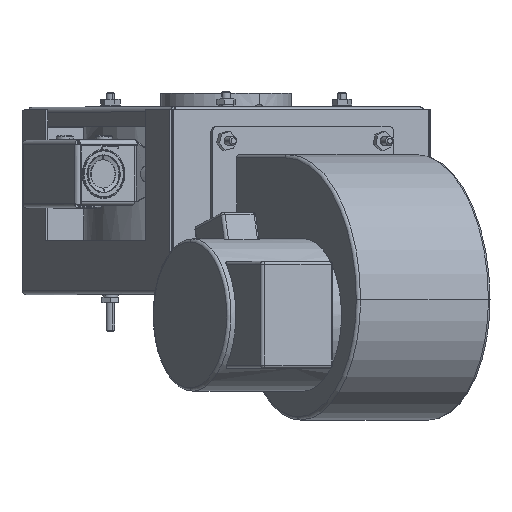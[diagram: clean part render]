
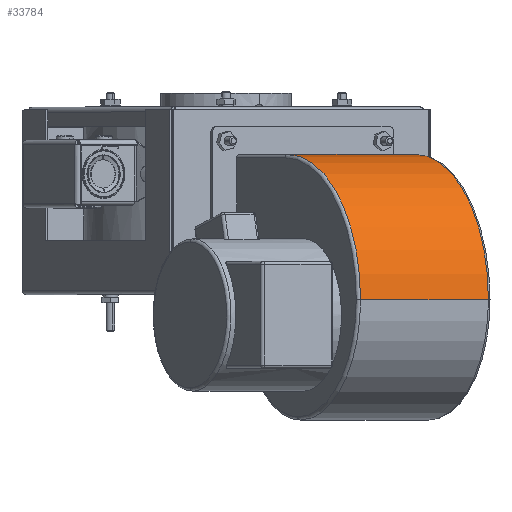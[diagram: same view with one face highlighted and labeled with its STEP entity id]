
A CAD part, top view. The second image highlights one B-rep face of the part: STEP entity #33784.
In plain terms, the highlighted cylindrical face has radius 81.178 mm (diameter 162.357 mm), a partial arc.
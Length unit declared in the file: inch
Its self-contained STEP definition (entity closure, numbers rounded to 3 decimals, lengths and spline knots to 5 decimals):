
#28 = EDGE_LOOP ( 'NONE', ( #20621, #13245, #39940, #10552 ) ) ;
#1838 = CARTESIAN_POINT ( 'NONE',  ( 4.16513, -1.57299, 3.95593 ) ) ;
#2930 = EDGE_CURVE ( 'NONE', #17275, #7009, #20439, .T. ) ;
#3298 = EDGE_CURVE ( 'NONE', #14286, #15098, #7066, .T. ) ;
#4481 = DIRECTION ( 'NONE',  ( 0.001, -1., -0.001 ) ) ;
#7009 = VERTEX_POINT ( 'NONE', #12351 ) ;
#7066 = CIRCLE ( 'NONE', #41260, 3.196 ) ;
#7449 = FACE_OUTER_BOUND ( 'NONE', #28, .T. ) ;
#9881 = AXIS2_PLACEMENT_3D ( 'NONE', #21325, #14488, #4481 ) ;
#10552 = ORIENTED_EDGE ( 'NONE', *, *, #2930, .T. ) ;
#12303 = CARTESIAN_POINT ( 'NONE',  ( 5.76313, -1.57299, 6.72375 ) ) ;
#12351 = CARTESIAN_POINT ( 'NONE',  ( 4.16169, 1.62301, 3.95792 ) ) ;
#13245 = ORIENTED_EDGE ( 'NONE', *, *, #3298, .T. ) ;
#13753 = DIRECTION ( 'NONE',  ( 0.866, 0.001, -0.5 ) ) ;
#14286 = VERTEX_POINT ( 'NONE', #28575 ) ;
#14488 = DIRECTION ( 'NONE',  ( 0.866, 0.001, -0.5 ) ) ;
#15098 = VERTEX_POINT ( 'NONE', #22700 ) ;
#16843 = VECTOR ( 'NONE', #16854, 39.37008 ) ;
#16854 = DIRECTION ( 'NONE',  ( 0.866, 0.001, -0.5 ) ) ;
#17275 = VERTEX_POINT ( 'NONE', #12303 ) ;
#17681 = CYLINDRICAL_SURFACE ( 'NONE', #9881, 3.196 ) ;
#20439 = CIRCLE ( 'NONE', #25941, 3.196 ) ;
#20621 = ORIENTED_EDGE ( 'NONE', *, *, #29269, .F. ) ;
#21325 = CARTESIAN_POINT ( 'NONE',  ( -5.48649, -1.58686, 9.5283 ) ) ;
#22700 = CARTESIAN_POINT ( 'NONE',  ( 2.95288, -1.57703, 8.34624 ) ) ;
#24760 = EDGE_CURVE ( 'NONE', #15098, #17275, #34345, .T. ) ;
#25941 = AXIS2_PLACEMENT_3D ( 'NONE', #1838, #42788, #39803 ) ;
#27839 = LINE ( 'NONE', #42342, #41806 ) ;
#28575 = CARTESIAN_POINT ( 'NONE',  ( 1.35144, 1.61897, 5.58041 ) ) ;
#29269 = EDGE_CURVE ( 'NONE', #14286, #7009, #27839, .T. ) ;
#30259 = CARTESIAN_POINT ( 'NONE',  ( -3.88849, -1.58686, 12.29611 ) ) ;
#31006 = DIRECTION ( 'NONE',  ( 0.866, 0.001, -0.5 ) ) ;
#32923 = DIRECTION ( 'NONE',  ( -0.001, 1., 0.001 ) ) ;
#33784 = ADVANCED_FACE ( 'NONE', ( #7449 ), #17681, .T. ) ;
#34345 = LINE ( 'NONE', #30259, #16843 ) ;
#36788 = CARTESIAN_POINT ( 'NONE',  ( 1.35488, -1.57703, 5.57843 ) ) ;
#39803 = DIRECTION ( 'NONE',  ( 0.001, -1., -0.001 ) ) ;
#39940 = ORIENTED_EDGE ( 'NONE', *, *, #24760, .T. ) ;
#41260 = AXIS2_PLACEMENT_3D ( 'NONE', #36788, #13753, #32923 ) ;
#41806 = VECTOR ( 'NONE', #31006, 39.37008 ) ;
#42342 = CARTESIAN_POINT ( 'NONE',  ( -5.48993, 1.60914, 9.53028 ) ) ;
#42788 = DIRECTION ( 'NONE',  ( -0.866, -0.001, 0.5 ) ) ;
